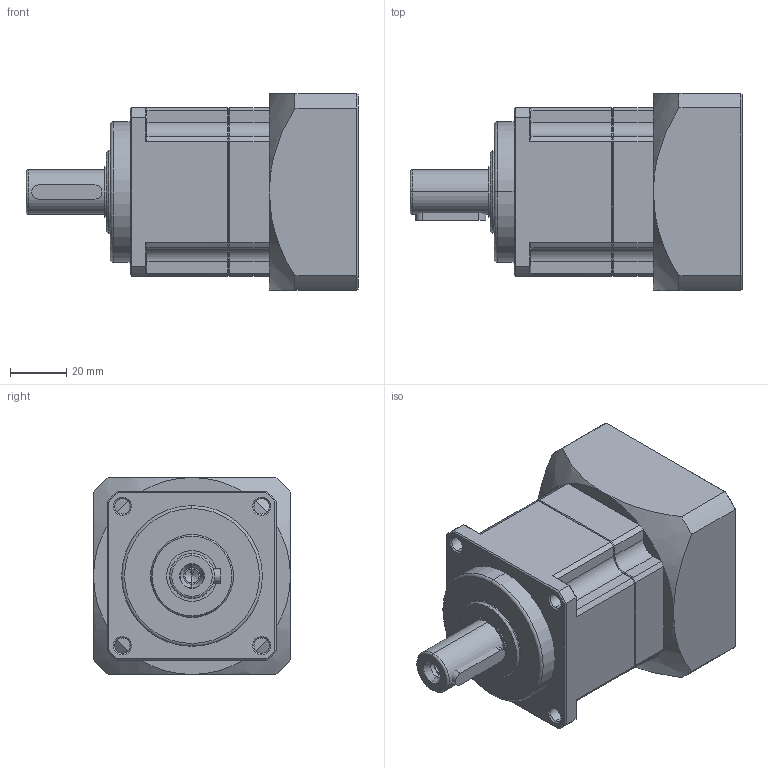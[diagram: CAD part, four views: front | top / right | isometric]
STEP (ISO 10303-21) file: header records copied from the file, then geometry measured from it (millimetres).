
FILE_DESCRIPTION(/* description */ (''),/* implementation_level */ '2;1');
FILE_NAME(/* name */ 'TB060-L1-S2-14-60-75-M5-34-6.stp',/* time_stamp */ '2023-11-16T10:33:48+08:00',/* author */ (''),/* organization */ (''),/* preprocessor_version */ 'ST-DEVELOPER v16',/* originating_system */ 'SIEMENS PLM Software NX 10.0',/* authorisation */ '');
FILE_SCHEMA (('CONFIG_CONTROL_DESIGN'));
Length unit declared in the file: millimetre
Products named in the file (1): _model127
Bounding box: 118 x 70 x 70 mm (x, y, z)
Volume: 294011.8 mm3; surface area: 51493.5 mm2
Topology: 4 solids, 4 shells, 284 faces, 653 edges, 383 vertices
Faces by surface type: plane 106, cylinder 88, cone 82, torus 4, bspline 4
Entity records: 8148 total; most frequent: CARTESIAN_POINT 1679, DIRECTION 1387, ORIENTED_EDGE 1286, EDGE_CURVE 643, AXIS2_PLACEMENT_3D 542, VERTEX_POINT 383, EDGE_LOOP 316, LINE 303
